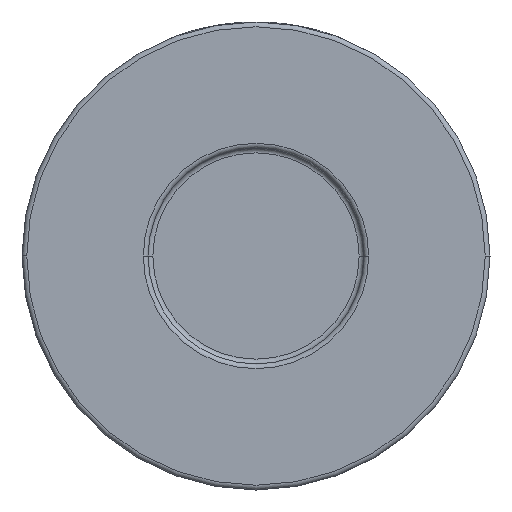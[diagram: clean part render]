
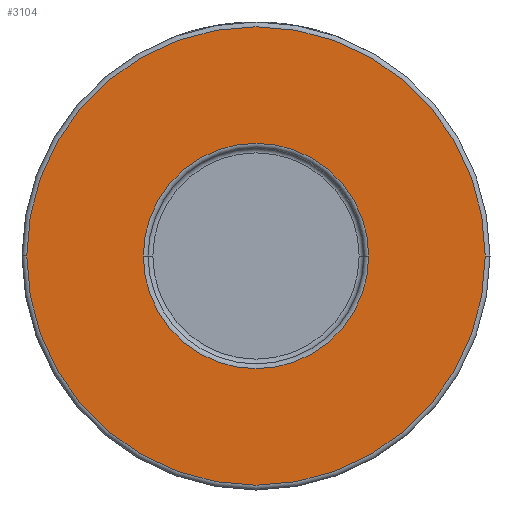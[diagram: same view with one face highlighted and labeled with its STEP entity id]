
A CAD part, front view. The second image highlights one B-rep face of the part: STEP entity #3104.
In plain terms, the highlighted planar face has unit normal (0, -1, 0).
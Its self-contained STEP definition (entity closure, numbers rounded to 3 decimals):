
#105 = CIRCLE ( 'NONE', #1073, 23.6 ) ;
#122 = CIRCLE ( 'NONE', #1305, 48. ) ;
#184 = EDGE_CURVE ( 'NONE', #4198, #3929, #105, .T. ) ;
#460 = EDGE_CURVE ( 'NONE', #1089, #1332, #3359, .T. ) ;
#516 = ORIENTED_EDGE ( 'NONE', *, *, #3472, .T. ) ;
#950 = DIRECTION ( 'NONE',  ( 1., 0., 0. ) ) ;
#1073 = AXIS2_PLACEMENT_3D ( 'NONE', #1521, #2599, #4388 ) ;
#1089 = VERTEX_POINT ( 'NONE', #4475 ) ;
#1260 = EDGE_LOOP ( 'NONE', ( #4243, #3219 ) ) ;
#1298 = AXIS2_PLACEMENT_3D ( 'NONE', #3609, #3630, #4305 ) ;
#1305 = AXIS2_PLACEMENT_3D ( 'NONE', #1931, #2634, #4014 ) ;
#1332 = VERTEX_POINT ( 'NONE', #3958 ) ;
#1363 = CARTESIAN_POINT ( 'NONE',  ( 49., -30., 0. ) ) ;
#1365 = AXIS2_PLACEMENT_3D ( 'NONE', #2516, #3949, #2253 ) ;
#1521 = CARTESIAN_POINT ( 'NONE',  ( 0., -30., 0. ) ) ;
#1625 = FACE_OUTER_BOUND ( 'NONE', #1260, .T. ) ;
#1631 = CARTESIAN_POINT ( 'NONE',  ( 23.6, -30., 0. ) ) ;
#1931 = CARTESIAN_POINT ( 'NONE',  ( 0., -30., 0. ) ) ;
#1977 = AXIS2_PLACEMENT_3D ( 'NONE', #1363, #2681, #950 ) ;
#2253 = DIRECTION ( 'NONE',  ( 1., 0., 0. ) ) ;
#2260 = CIRCLE ( 'NONE', #1298, 23.6 ) ;
#2356 = ORIENTED_EDGE ( 'NONE', *, *, #184, .T. ) ;
#2516 = CARTESIAN_POINT ( 'NONE',  ( 0., -30., 0. ) ) ;
#2599 = DIRECTION ( 'NONE',  ( 0., 1., 0. ) ) ;
#2634 = DIRECTION ( 'NONE',  ( 0., -1., 0. ) ) ;
#2681 = DIRECTION ( 'NONE',  ( 0., -1., 0. ) ) ;
#3032 = PLANE ( 'NONE',  #1977 ) ;
#3104 = ADVANCED_FACE ( 'NONE', ( #3127, #1625 ), #3032, .T. ) ;
#3127 = FACE_BOUND ( 'NONE', #3894, .T. ) ;
#3219 = ORIENTED_EDGE ( 'NONE', *, *, #460, .T. ) ;
#3359 = CIRCLE ( 'NONE', #1365, 48. ) ;
#3472 = EDGE_CURVE ( 'NONE', #3929, #4198, #2260, .T. ) ;
#3609 = CARTESIAN_POINT ( 'NONE',  ( 0., -30., 0. ) ) ;
#3630 = DIRECTION ( 'NONE',  ( 0., 1., 0. ) ) ;
#3894 = EDGE_LOOP ( 'NONE', ( #2356, #516 ) ) ;
#3929 = VERTEX_POINT ( 'NONE', #4314 ) ;
#3949 = DIRECTION ( 'NONE',  ( 0., -1., 0. ) ) ;
#3958 = CARTESIAN_POINT ( 'NONE',  ( 48., -30., 0. ) ) ;
#4014 = DIRECTION ( 'NONE',  ( 1., 0., 0. ) ) ;
#4198 = VERTEX_POINT ( 'NONE', #1631 ) ;
#4243 = ORIENTED_EDGE ( 'NONE', *, *, #4366, .T. ) ;
#4305 = DIRECTION ( 'NONE',  ( 1., 0., 0. ) ) ;
#4314 = CARTESIAN_POINT ( 'NONE',  ( -23.6, -30., 0. ) ) ;
#4366 = EDGE_CURVE ( 'NONE', #1332, #1089, #122, .T. ) ;
#4388 = DIRECTION ( 'NONE',  ( 1., 0., 0. ) ) ;
#4475 = CARTESIAN_POINT ( 'NONE',  ( -48., -30., 0. ) ) ;
